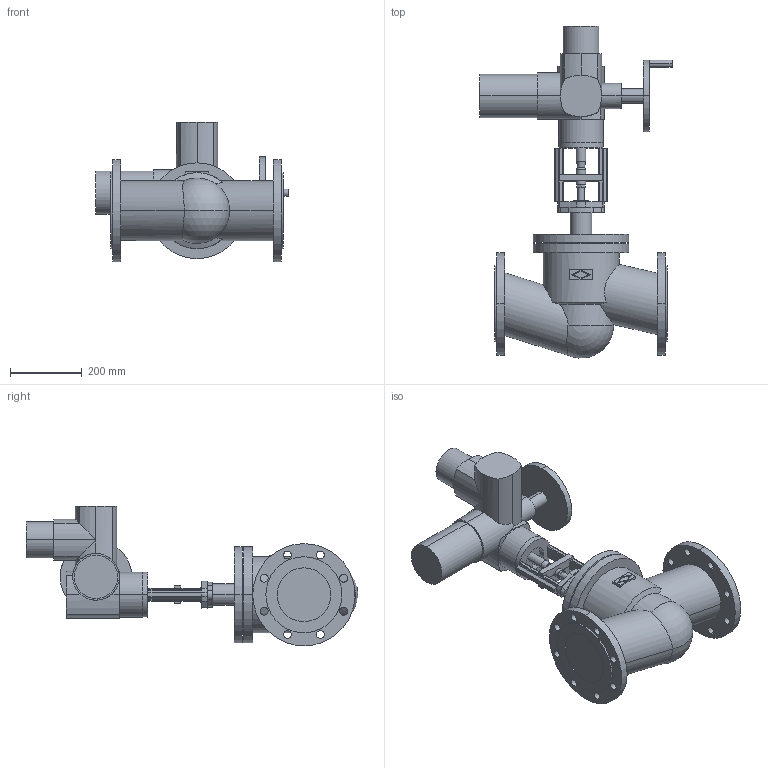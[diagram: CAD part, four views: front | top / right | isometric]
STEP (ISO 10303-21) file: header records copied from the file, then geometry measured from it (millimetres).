
FILE_DESCRIPTION(('OneSpaceDesigner STEP Export'),'2;1');
FILE_NAME('c000003094.stp','2007-01-09T10:47:52',(''),(''),'OneSpace Designer STEP processor for AP214 (Solid Model)','OneSpace Designer 14.00B 27-May-2006 (C) CoCreate Software GmbH','');
FILE_SCHEMA(('AUTOMOTIVE_DESIGN { 1 0 10303 214 1 1 1 1 }'));
Length unit declared in the file: millimetre
Products named in the file (3): 1; 2; 3
Bounding box: 536 x 925.77 x 389.5 mm (x, y, z)
Volume: 30608777.5 mm3; surface area: 1286769.2 mm2
Topology: 3 solids, 3 shells, 284 faces, 719 edges, 455 vertices
Faces by surface type: cylinder 148, plane 128, cone 6, sphere 2
Entity records: 8325 total; most frequent: CARTESIAN_POINT 1918, ORIENTED_EDGE 1434, DIRECTION 1179, EDGE_CURVE 717, VERTEX_POINT 455, AXIS2_PLACEMENT_3D 405, VECTOR 369, LINE 369
